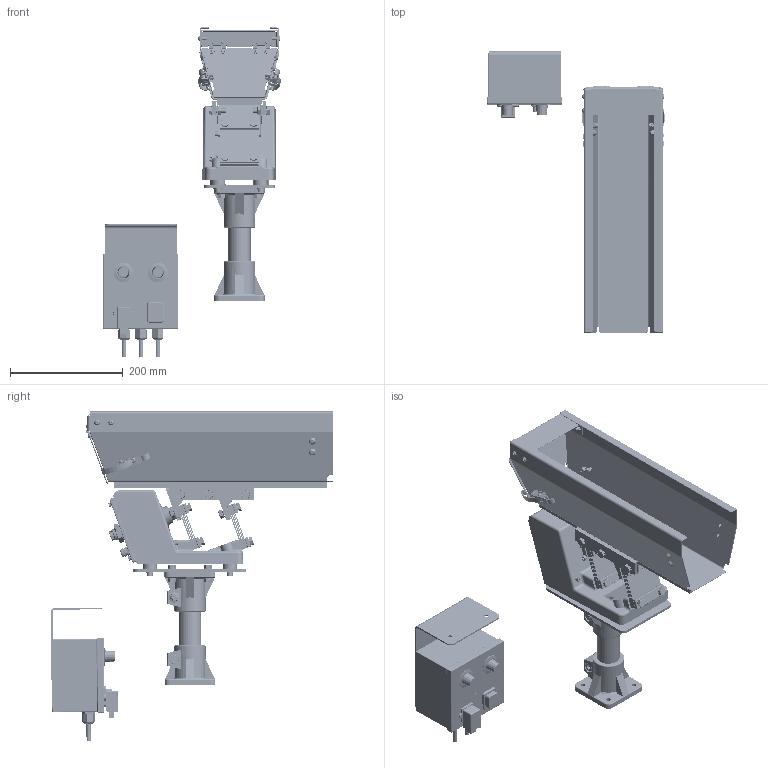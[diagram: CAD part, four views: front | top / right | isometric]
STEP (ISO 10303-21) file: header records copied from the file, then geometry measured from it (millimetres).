
FILE_DESCRIPTION (( 'STEP AP214' ), '1' );
FILE_NAME ('GM000268..step', '2026-10-16T13:05:55', ( '' ), ( '' ), 'SwSTEP 2.0', 'SolidWorks 2025', '' );
FILE_SCHEMA (( 'AUTOMOTIVE_DESIGN' ));
Length unit declared in the file: millimetre
Products named in the file (40): PD001021; CM000305_003; CM000023; GM000268.; CM000029; PD001016; CM000921; PD001014; CM000305; CM000045; CM000561; CM000079; PD001021_001; CM000924; PD000067; CM000922; CM000071; CM000432; CM000559; CM000306_002; CM000934; CM000305_001; CM000306_003; PD001091; PD001021_002; CM000055; CM000274; PD001013; CM000031; CM000306_001; CM000305_002; CM000027; SM000080; CM000979; CE000026; CM000306; CM000925; CM000064; PD001092
Assembly tree (99 placements, depth 3):
  GM000268.
    CM000079  x4
    CM000561  x10
    CM000559  x8
    CM000071  x4
    CM000274  x4
    CM000064  x4
    CM000031  x4
    CM000045  x8
    CM000027  x4
    CM000023  x4
    CM000029  x8
    CM000979  x6
    PD001021
      PD001021_001
      PD001021_002
    PD001091
    CM000305
      CM000305_001
      CM000305_003
      CM000305_002
    CM000305
      CM000305_001
      CM000305_003
      CM000305_002
    PD001092
    CM000306  x2
      CM000306_001
      CM000306_002
      CM000306_003
    PD001016
    CM000432  x2
    PD001014
    PD001013
    CM000055
    PD000067
    CE000026
    SM000080
    CM000934  x4
  CM000921
  CM000924
  CM000922
  CM000925
Bounding box: 315.06 x 500.15 x 583.57 mm (x, y, z)
Volume: 2964479.1 mm3; surface area: 1186111.8 mm2
Topology: 96 solids, 97 shells, 9485 faces, 25578 edges, 16429 vertices
Faces by surface type: cylinder 6455, plane 1795, cone 788, torus 237, sphere 158, bspline 52
Entity records: 151273 total; most frequent: CARTESIAN_POINT 64292, ORIENTED_EDGE 20084, DIRECTION 13130, EDGE_CURVE 10044, VERTEX_POINT 6322, B_SPLINE_CURVE_WITH_KNOTS 6035, AXIS2_PLACEMENT_3D 5270, EDGE_LOOP 4312
